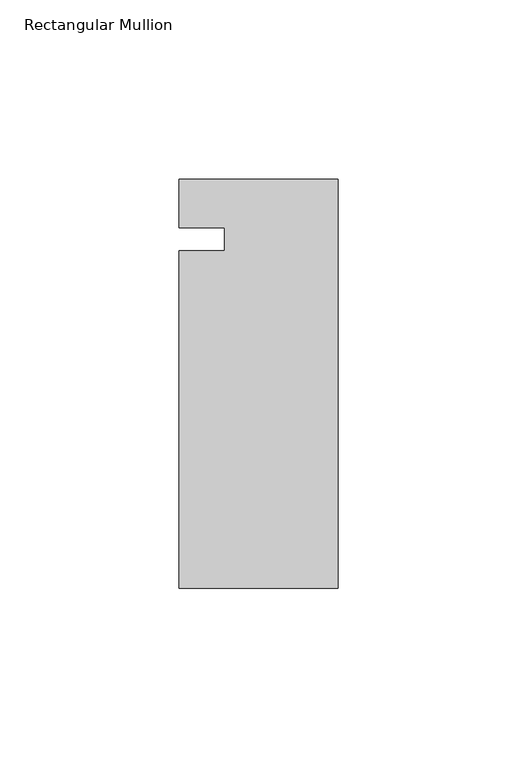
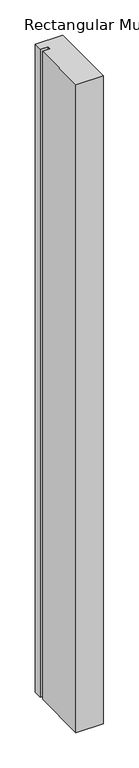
"""IFC4 building model written with IfcOpenShell, lengths in millimetres: member geometry, Rectangular Mullion : Kawneer-TRIFAB_VG_450_BACK_SB_Jamb L."""

from ifc_helpers import new_model, si_unit, frame, origin, place, context, project, spatial, polyline, outline, extrude, source, transform, mapped, element, save


def rectangular_mullion_02851ec9(model_context):
    return source(origin(), model_context, "Body", "SweptSolid", [
        extrude(outline(polyline([(-44.45, 16.8671875), (0.0, 16.8671875), (0.0, -97.4328125), (-44.45, -97.4328125), (-44.45, -3.1159279), (-31.7482296, -3.1159279), (-31.7482296, 3.2340721), (-44.45, 3.2340721), (-44.45, 16.8671875)])), frame((0.0, 0.0, -1116.4405973), z_axis=(0.0, 0.0, 1.0), x_axis=(1.0, 0.0, 0.0)), (0.0, 0.0, 1.0), 1116.4405973),
    ])


if __name__ == "__main__":
    model = new_model("IFC4")
    model_context = context("Model", 3, world=origin())
    ifc_project = project(units=[si_unit("LENGTHUNIT", "METRE", prefix="MILLI")], contexts=[model_context])
    site = spatial("IfcSite", under=ifc_project)
    building = spatial("IfcBuilding", under=site)
    placement = place(None, origin())
    rectangular_mullion_shape = rectangular_mullion_02851ec9(model_context)
    element("IfcMember", 1, ObjectType="Rectangular Mullion : Kawneer-TRIFAB_VG_450_BACK_SB_Jamb L", at=placement, inside=building, context=model_context, shape_type="MappedRepresentation", body=[
        mapped(rectangular_mullion_shape, transform((0.0, 0.0, 0.0), x_axis=(1.0, 0.0, 0.0), y_axis=(0.0, 1.0, 0.0), z_axis=(0.0, 0.0, 1.0))),
    ])
    save(model, "model.ifc")
